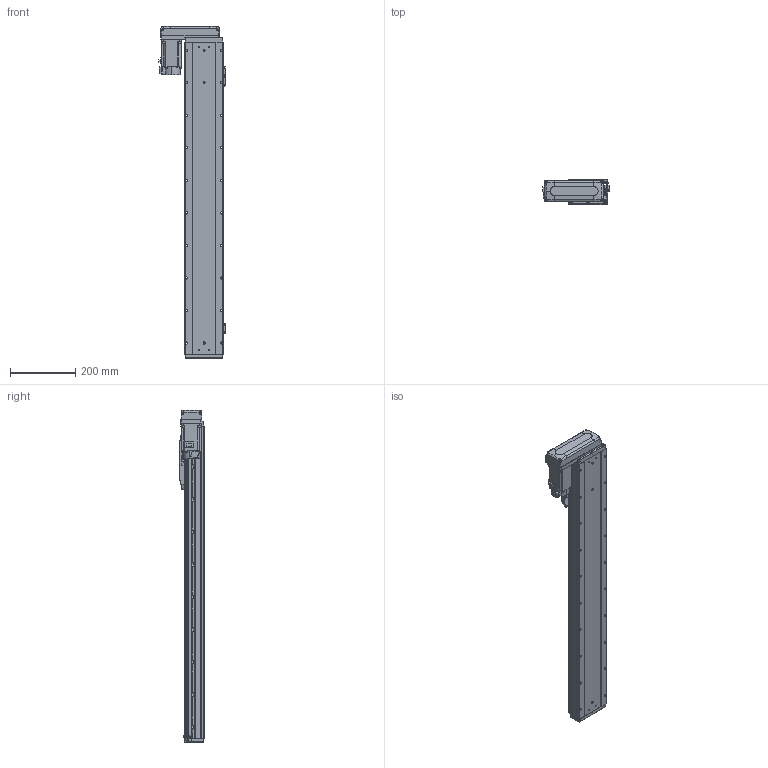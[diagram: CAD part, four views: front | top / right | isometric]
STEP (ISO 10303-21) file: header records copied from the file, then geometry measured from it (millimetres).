
FILE_DESCRIPTION (( 'STEP AP203' ), '1' );
FILE_NAME ('GTH12-750-BR-M40-C4.step', '2025-07-16T03:45:14', ( '' ), ( '' ), 'SwSTEP 2.0', 'SolidWorks 2023', '' );
FILE_SCHEMA (( 'CONFIG_CONTROL_DESIGN' ));
Length unit declared in the file: millimetre
Products named in the file (18): GTH80-022; GTH120-003; GTH50-024; GTH120-004; GTH12-750-BR-M40-C4; GTH50-023; hg-kn43j_-s100_; GTH80-028; GBT 70.1-M3×6; GBT 70.1-M5×16; BTH-M3X5X6; CTHA86-033_M40B; GTH120-027-1_GTH120-027-2; GBT 70.3-M3×8; GTH120-013; GTH120-001_750; GBT96.1-2002 3×0.8; GTH120-006
Assembly tree (59 placements, depth 2):
  GTH12-750-BR-M40-C4
    GTH120-001_750
    GTH120-003
    GTH120-006
    GTH120-004
    GTH120-013
    GBT 70.1-M3×6  x14
    GBT 70.1-M5×16  x10
    GBT 70.3-M3×8  x4
    GTH80-022
    GTH80-028  x2
    GTH50-023  x3
    GTH50-024  x3
    GBT96.1-2002 3×0.8  x6
    BTH-M3X5X6  x8
    hg-kn43j_-s100_
    CTHA86-033_M40B
    GTH120-027-1_GTH120-027-2
Bounding box: 203.5 x 76 x 1020.5 mm (x, y, z)
Volume: 7506455.9 mm3; surface area: 678753.9 mm2
Topology: 61 solids, 61 shells, 2476 faces, 5783 edges, 3549 vertices
Faces by surface type: plane 1272, cylinder 720, cone 296, torus 174, sphere 8, bspline 6
Entity records: 46597 total; most frequent: CARTESIAN_POINT 7894, DIRECTION 7723, ORIENTED_EDGE 7176, EDGE_CURVE 3588, AXIS2_PLACEMENT_3D 2699, LINE 2325, VECTOR 2325, VERTEX_POINT 2270
